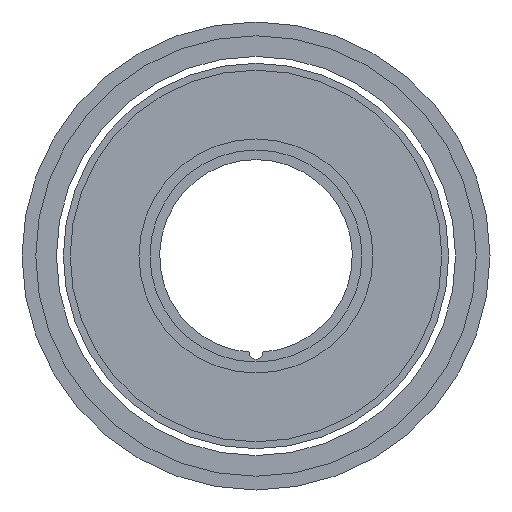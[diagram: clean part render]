
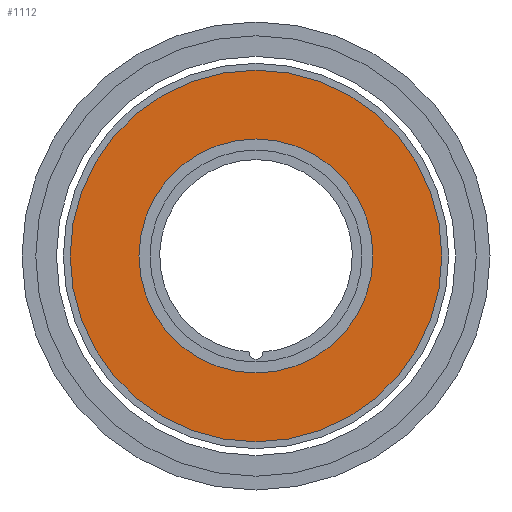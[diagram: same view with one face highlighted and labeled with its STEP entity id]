
A CAD part, front view. The second image highlights one B-rep face of the part: STEP entity #1112.
In plain terms, the highlighted planar face has unit normal (0, -1, 0).
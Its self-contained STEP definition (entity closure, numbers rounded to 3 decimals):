
#15 = ORIENTED_EDGE ( 'NONE', *, *, #450, .T. ) ;
#25 = FACE_BOUND ( 'NONE', #906, .T. ) ;
#35 = CARTESIAN_POINT ( 'NONE',  ( 0., -1.6, -8.5 ) ) ;
#43 = DIRECTION ( 'NONE',  ( 0., 0., -1. ) ) ;
#46 = EDGE_LOOP ( 'NONE', ( #15, #1447 ) ) ;
#56 = CIRCLE ( 'NONE', #676, 13.5 ) ;
#84 = DIRECTION ( 'NONE',  ( 0., 0., -1. ) ) ;
#130 = DIRECTION ( 'NONE',  ( 0., 0., -1. ) ) ;
#144 = CARTESIAN_POINT ( 'NONE',  ( 0., -1.6, 0. ) ) ;
#152 = AXIS2_PLACEMENT_3D ( 'NONE', #1067, #1336, #43 ) ;
#303 = CARTESIAN_POINT ( 'NONE',  ( 0., -1.6, -13.5 ) ) ;
#364 = CARTESIAN_POINT ( 'NONE',  ( 0., -1.6, 0. ) ) ;
#400 = FACE_OUTER_BOUND ( 'NONE', #46, .T. ) ;
#450 = EDGE_CURVE ( 'NONE', #767, #1421, #56, .T. ) ;
#604 = ORIENTED_EDGE ( 'NONE', *, *, #704, .F. ) ;
#635 = DIRECTION ( 'NONE',  ( 0., -1., 0. ) ) ;
#676 = AXIS2_PLACEMENT_3D ( 'NONE', #1455, #677, #1057 ) ;
#677 = DIRECTION ( 'NONE',  ( 0., -1., 0. ) ) ;
#704 = EDGE_CURVE ( 'NONE', #1214, #1497, #732, .T. ) ;
#732 = CIRCLE ( 'NONE', #1160, 8.5 ) ;
#766 = PLANE ( 'NONE',  #1218 ) ;
#767 = VERTEX_POINT ( 'NONE', #303 ) ;
#877 = DIRECTION ( 'NONE',  ( 0., 0., -1. ) ) ;
#906 = EDGE_LOOP ( 'NONE', ( #604, #1339 ) ) ;
#927 = EDGE_CURVE ( 'NONE', #1421, #767, #1550, .T. ) ;
#1051 = AXIS2_PLACEMENT_3D ( 'NONE', #1245, #1124, #84 ) ;
#1057 = DIRECTION ( 'NONE',  ( 0., 0., -1. ) ) ;
#1059 = DIRECTION ( 'NONE',  ( 0., -1., 0. ) ) ;
#1067 = CARTESIAN_POINT ( 'NONE',  ( 0., -1.6, 0. ) ) ;
#1112 = ADVANCED_FACE ( 'NONE', ( #400, #25 ), #766, .T. ) ;
#1124 = DIRECTION ( 'NONE',  ( 0., -1., 0. ) ) ;
#1147 = CARTESIAN_POINT ( 'NONE',  ( 0., -1.6, 8.5 ) ) ;
#1160 = AXIS2_PLACEMENT_3D ( 'NONE', #364, #635, #130 ) ;
#1214 = VERTEX_POINT ( 'NONE', #35 ) ;
#1218 = AXIS2_PLACEMENT_3D ( 'NONE', #144, #1059, #877 ) ;
#1245 = CARTESIAN_POINT ( 'NONE',  ( 0., -1.6, 0. ) ) ;
#1271 = CIRCLE ( 'NONE', #152, 8.5 ) ;
#1283 = EDGE_CURVE ( 'NONE', #1497, #1214, #1271, .T. ) ;
#1336 = DIRECTION ( 'NONE',  ( 0., -1., 0. ) ) ;
#1339 = ORIENTED_EDGE ( 'NONE', *, *, #1283, .F. ) ;
#1409 = CARTESIAN_POINT ( 'NONE',  ( 0., -1.6, 13.5 ) ) ;
#1421 = VERTEX_POINT ( 'NONE', #1409 ) ;
#1447 = ORIENTED_EDGE ( 'NONE', *, *, #927, .T. ) ;
#1455 = CARTESIAN_POINT ( 'NONE',  ( 0., -1.6, 0. ) ) ;
#1497 = VERTEX_POINT ( 'NONE', #1147 ) ;
#1550 = CIRCLE ( 'NONE', #1051, 13.5 ) ;
